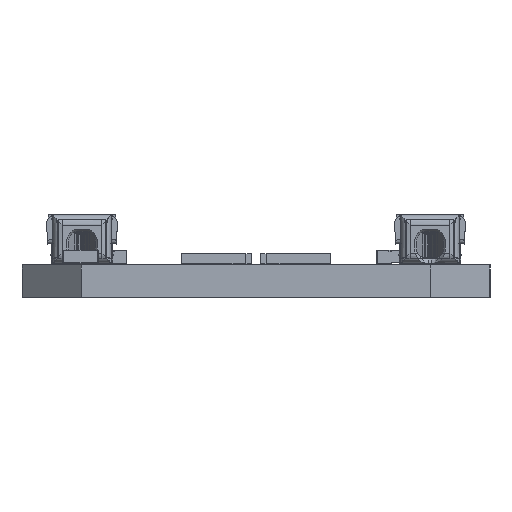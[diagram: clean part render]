
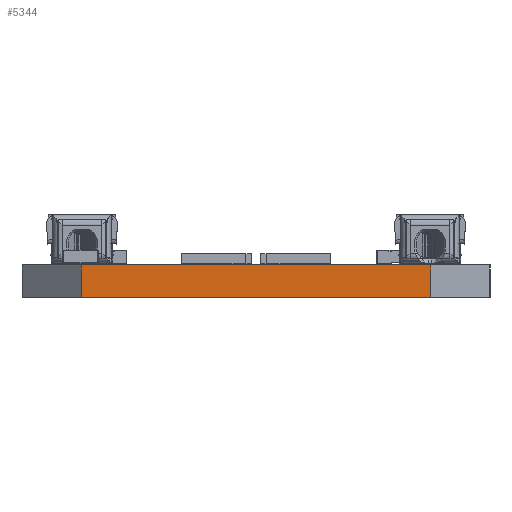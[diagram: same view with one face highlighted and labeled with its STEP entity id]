
A CAD part, left-side view. The second image highlights one B-rep face of the part: STEP entity #5344.
In plain terms, the highlighted planar face has unit normal (-1, 0, 0).
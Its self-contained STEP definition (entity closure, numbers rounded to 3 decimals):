
#3737=DIRECTION('',(0.,1.,0.));
#3738=VECTOR('',#3737,17.6);
#3739=CARTESIAN_POINT('',(-139.5,-8.8,1.65));
#3740=LINE('',#3739,#3738);
#4105=DIRECTION('',(0.,0.,1.));
#4106=VECTOR('',#4105,1.65);
#4107=CARTESIAN_POINT('',(-139.5,8.8,0.));
#4108=LINE('',#4107,#4106);
#4147=DIRECTION('',(0.,0.,1.));
#4148=VECTOR('',#4147,1.65);
#4149=CARTESIAN_POINT('',(-139.5,-8.8,0.));
#4150=LINE('',#4149,#4148);
#4210=DIRECTION('',(0.,-1.,0.));
#4211=VECTOR('',#4210,17.6);
#4212=CARTESIAN_POINT('',(-139.5,8.8,0.));
#4213=LINE('',#4212,#4211);
#5019=CARTESIAN_POINT('',(-139.5,8.8,1.65));
#5020=VERTEX_POINT('',#5019);
#5021=CARTESIAN_POINT('',(-139.5,8.8,0.));
#5022=VERTEX_POINT('',#5021);
#5023=CARTESIAN_POINT('',(-139.5,-8.8,1.65));
#5024=VERTEX_POINT('',#5023);
#5025=CARTESIAN_POINT('',(-139.5,-8.8,0.));
#5026=VERTEX_POINT('',#5025);
#5330=CARTESIAN_POINT('',(-139.5,0.,0.825));
#5331=DIRECTION('',(1.,0.,0.));
#5332=DIRECTION('',(0.,0.,1.));
#5333=AXIS2_PLACEMENT_3D('',#5330,#5331,#5332);
#5334=PLANE('',#5333);
#5336=ORIENTED_EDGE('',*,*,#5335,.T.);
#5337=ORIENTED_EDGE('',*,*,#5204,.F.);
#5339=ORIENTED_EDGE('',*,*,#5338,.F.);
#5341=ORIENTED_EDGE('',*,*,#5340,.F.);
#5342=EDGE_LOOP('',(#5336,#5337,#5339,#5341));
#5343=FACE_OUTER_BOUND('',#5342,.F.);
#5204=EDGE_CURVE('',#5024,#5020,#3740,.T.);
#5335=EDGE_CURVE('',#5022,#5020,#4108,.T.);
#5338=EDGE_CURVE('',#5026,#5024,#4150,.T.);
#5340=EDGE_CURVE('',#5022,#5026,#4213,.T.);
#5344=ADVANCED_FACE('',(#5343),#5334,.F.);
